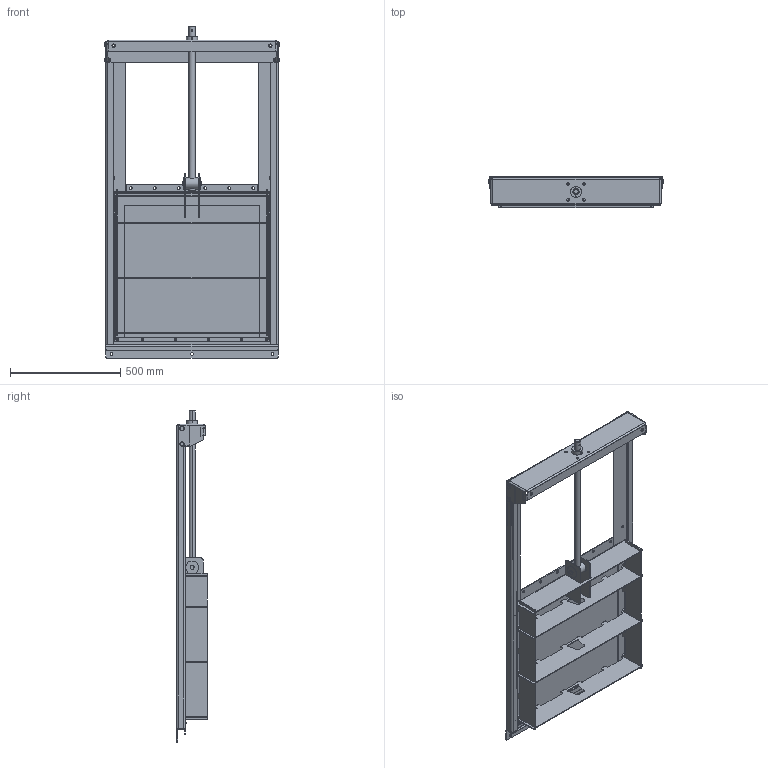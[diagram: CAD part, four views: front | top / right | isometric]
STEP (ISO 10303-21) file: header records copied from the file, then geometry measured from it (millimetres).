
FILE_DESCRIPTION (( 'STEP AP214' ), '1' );
FILE_NAME ('VGM620X-00EP0600.STEP', '2020-04-09T15:45:09', ( '' ), ( '' ), 'SwSTEP 2.0', 'SolidWorks 2017', '' );
FILE_SCHEMA (( 'AUTOMOTIVE_DESIGN' ));
Length unit declared in the file: millimetre
Products named in the file (1): VGM620X-00EP0600
Bounding box: 796.8 x 139 x 1504 mm (x, y, z)
Volume: 9585446.1 mm3; surface area: 4393589.4 mm2
Topology: 83 solids, 83 shells, 2594 faces, 6862 edges, 4458 vertices
Faces by surface type: plane 1299, cylinder 965, cone 282, bspline 48
Entity records: 113536 total; most frequent: CARTESIAN_POINT 18173, DIRECTION 13826, ORIENTED_EDGE 13708, EDGE_CURVE 6854, AXIS2_PLACEMENT_3D 4763, VERTEX_POINT 4458, VECTOR 4300, LINE 4300
